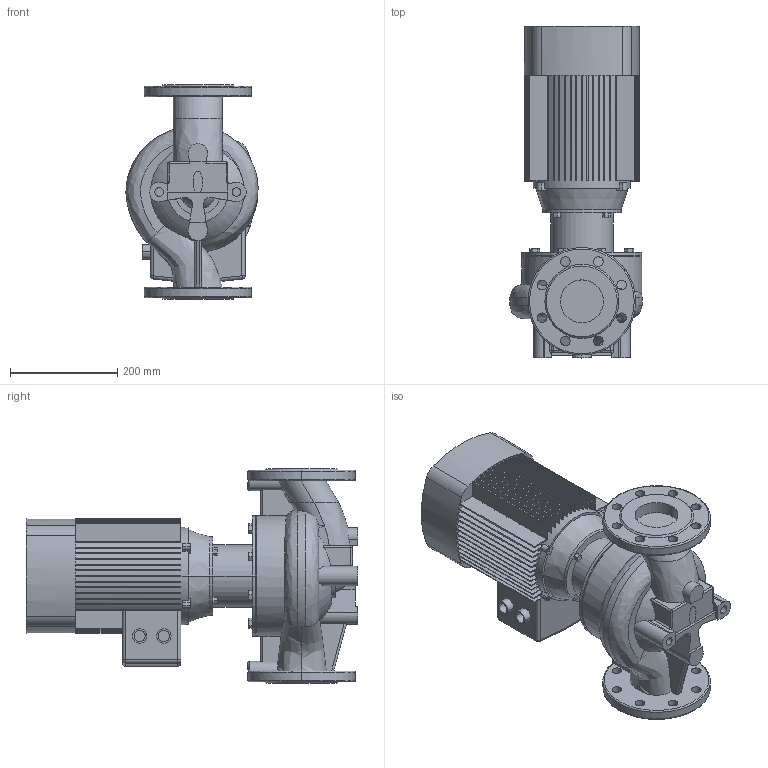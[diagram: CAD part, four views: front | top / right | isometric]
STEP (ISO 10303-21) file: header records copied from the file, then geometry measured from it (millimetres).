
FILE_DESCRIPTION (( 'STEP AP203' ), '1' );
FILE_NAME ('TD80-18G_2.STEP', '2022-05-02T18:34:18', ( '' ), ( '' ), 'SwSTEP 2.0', 'SolidWorks 2019', '' );
FILE_SCHEMA (( 'CONFIG_CONTROL_DESIGN' ));
Length unit declared in the file: millimetre
Products named in the file (4): ED_B14_YE2-112M-2 (4); TD80-18G_2; Fon_80_TD80-18G_2; Pr_ch 80_TD80-18G_2
Assembly tree (3 placements, depth 2):
  TD80-18G_2
    Pr_ch 80_TD80-18G_2
    Fon_80_TD80-18G_2
    ED_B14_YE2-112M-2 (4)
Bounding box: 246.14 x 618 x 400 mm (x, y, z)
Volume: 20431535.8 mm3; surface area: 1296114.7 mm2
Topology: 3 solids, 7 shells, 667 faces, 1796 edges, 1184 vertices
Faces by surface type: plane 426, cylinder 173, bspline 26, torus 25, cone 11, sphere 6
Entity records: 27796 total; most frequent: CARTESIAN_POINT 10440, ORIENTED_EDGE 3584, DIRECTION 3507, EDGE_CURVE 1792, AXIS2_PLACEMENT_3D 1233, VERTEX_POINT 1184, LINE 1041, VECTOR 1041
